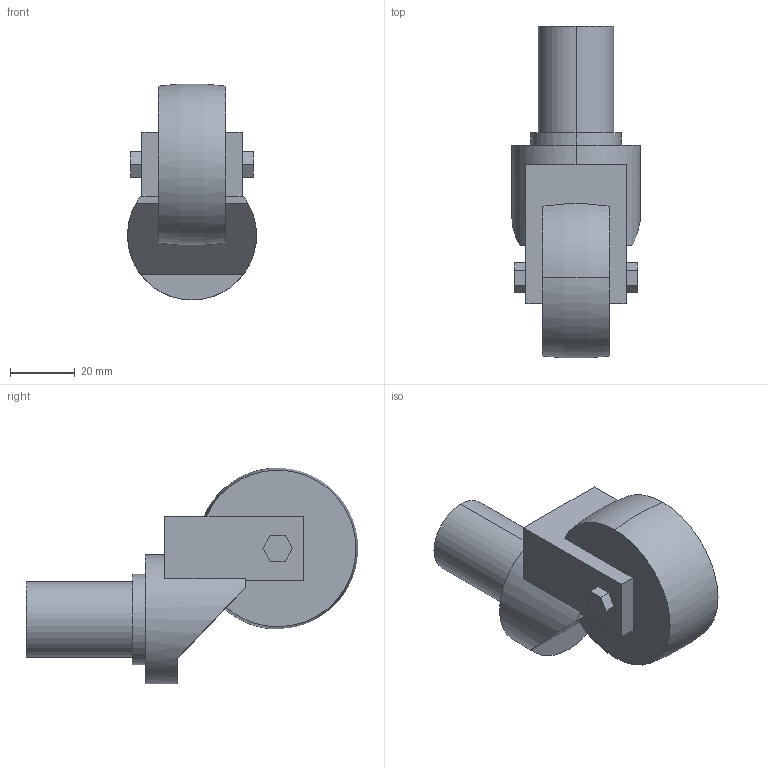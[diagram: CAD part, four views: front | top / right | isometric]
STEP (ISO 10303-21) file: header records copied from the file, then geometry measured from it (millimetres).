
FILE_DESCRIPTION (( 'STEP AP214' ), '1' );
FILE_NAME ('SUS-50N.step', '2024-02-15T04:32:09', ( 'catia' ), ( 'HP Inc.' ), 'SwSTEP 2.0', 'SolidWorks 2021', '' );
FILE_SCHEMA (( 'AUTOMOTIVE_DESIGN' ));
Length unit declared in the file: millimetre
Products named in the file (1): SUS-50N
Bounding box: 40 x 102.88 x 66.92 mm (x, y, z)
Volume: 91514.3 mm3; surface area: 15266.5 mm2
Topology: 1 solids, 1 shells, 40 faces, 102 edges, 68 vertices
Faces by surface type: plane 31, cylinder 6, torus 3
Entity records: 1251 total; most frequent: CARTESIAN_POINT 228, ORIENTED_EDGE 204, DIRECTION 204, EDGE_CURVE 102, VECTOR 74, LINE 74, VERTEX_POINT 68, AXIS2_PLACEMENT_3D 65
